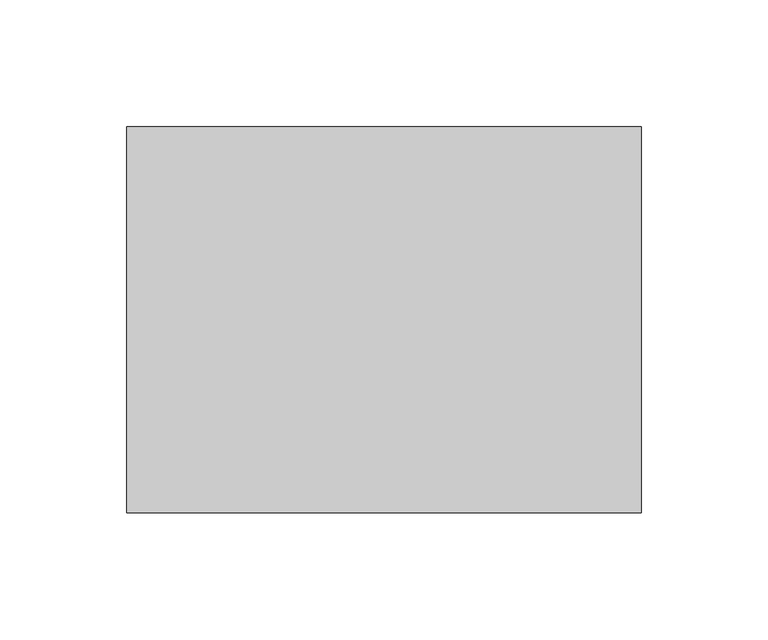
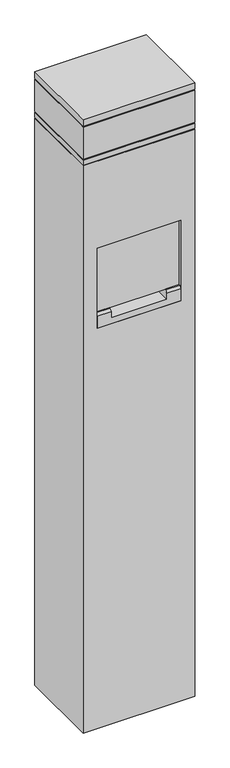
"""IFC4 building model written with IfcOpenShell, lengths in millimetres: proxy geometry, Charging_Station-Wiremold-Accent_Light : Outdoor Charging Station with Accent Light, 2 Gangs (0x GFCI, 2x 4USB), Bronze."""

from ifc_helpers import new_model, si_unit, frame, origin, origin_with_axes, place, context, project, spatial, polyline, circle_curve, outline, extrude, faceted_brep, source, transform, mapped, element, save
from ifc_brep_helpers import plane_surface, revolved_surface, advanced_brep


def electrical_fixtures_5779f368(model_context):
    return source(origin(), model_context, "Body", "SolidModel", [
        faceted_brep([(76.2, -76.2, 770.89), (76.2, 19.05, 770.89), (76.2, 19.05, 798.068), (76.2, -72.136, 798.068), (76.2, -76.2, 794.004), (-76.2, -76.2, 770.89), (-76.2, -76.2, 794.004), (-76.2, -72.136, 798.068), (-76.2, 19.05, 798.068), (-76.2, 19.05, 770.89), (-50.8, -72.136, 798.068), (-50.8, -31.8809117, 798.068), (50.8, -31.8809117, 798.068), (50.8, -72.136, 798.068), (50.8, -76.2, 794.004), (50.8, -76.2, 782.193), (-50.8, -76.2, 782.193), (-50.8, -76.2, 794.004), (50.8, -50.8, 782.193), (-50.8, -50.8, 782.193)], [[[0, 1, 2, 3, 4]], [[5, 6, 7, 8, 9]], [[1, 0, 5, 9]], [[2, 1, 9, 8]], [[3, 2, 8, 7, 10, 11, 12, 13]], [[0, 4, 14, 15, 16, 17, 6, 5]], [[12, 18, 15, 14, 13]], [[16, 19, 11, 10, 17]], [[18, 12, 11, 19]], [[15, 18, 19, 16]], [[4, 3, 13, 14]], [[7, 6, 17, 10]]]),
        advanced_brep(
        [(101.6, 76.2, 1092.2), (-101.6, 76.2, 1092.2), (-101.6, -76.2, 1092.2), (101.6, -76.2, 1092.2), (101.6, 76.2, 0.0), (101.6, -76.2, 0.0), (-101.6, -76.2, 0.0), (-101.6, 76.2, 0.0), (-55.0037, 0.0, 0.0), (55.0037, 0.0, 0.0), (76.2, -76.2, 925.068), (76.2, -76.2, 770.89), (-76.2, -76.2, 770.89), (-76.2, -76.2, 925.068), (76.2, 19.05, 925.068), (76.2, 19.05, 770.89), (76.2, -70.612, 925.068), (76.2, -70.612, 956.818), (76.2, -38.1, 956.818), (76.2, -38.1, 925.068), (-76.2, 19.05, 925.068), (-76.2, -38.1, 925.068), (-76.2, -38.1, 956.818), (-76.2, -70.612, 956.818), (-76.2, -70.612, 925.068), (-76.2, 19.05, 770.89), (51.5994623, 19.05, 770.89), (55.0037, 0.0, 770.89), (-55.0037, 0.0, 770.89), (-51.5994623, 19.05, 770.89)],
        [
            (0, 1),
            (1, 2),
            (2, 3),
            (3, 0),
            (4, 5),
            (5, 6),
            (6, 7),
            (7, 4),
            (8, 9, circle_curve(origin_with_axes(), 55.0037)),
            (9, 8, circle_curve(origin_with_axes(), 55.0037)),
            (0, 4),
            (7, 1),
            (6, 2),
            (5, 3),
            (10, 11),
            (11, 12),
            (12, 13),
            (13, 10),
            (14, 15),
            (15, 11),
            (10, 16),
            (16, 17),
            (17, 18),
            (18, 19),
            (19, 14),
            (20, 21),
            (21, 22),
            (22, 23),
            (23, 24),
            (24, 13),
            (12, 25),
            (25, 20),
            (19, 21),
            (20, 14),
            (15, 26),
            (26, 27, circle_curve(frame((0.0, 0.0, 770.89), z_axis=(0.0, 0.0, -1.0), x_axis=(1.0, 0.0, 0.0)), 55.0037)),
            (27, 28, circle_curve(frame((0.0, 0.0, 770.89), z_axis=(0.0, 0.0, -1.0), x_axis=(1.0, 0.0, 0.0)), 55.0037)),
            (28, 29, circle_curve(frame((0.0, 0.0, 770.89), z_axis=(0.0, 0.0, -1.0), x_axis=(1.0, 0.0, 0.0)), 55.0037)),
            (29, 25),
            (29, 26),
            (18, 22),
            (17, 23),
            (16, 24),
            (29, 26, circle_curve(frame((0.0, 0.0, 770.89), z_axis=(0.0, 0.0, -1.0), x_axis=(1.0, 0.0, 0.0)), 55.0037)),
            (27, 9),
            (8, 28),
        ],
        [
            plane_surface(frame((-101.6, 76.2, 1092.2), z_axis=(0.0, 0.0, 1.0), x_axis=(-1.0, 0.0, 0.0))),
            plane_surface(frame((-101.6, 76.2, 0.0), z_axis=(0.0, 0.0, -1.0), x_axis=(1.0, 0.0, 0.0))),
            plane_surface(frame((101.6, 76.2, 1092.2), z_axis=(0.0, 1.0, 0.0), x_axis=(0.0, 0.0, -1.0))),
            plane_surface(frame((-101.6, 76.2, 1092.2), z_axis=(-1.0, 0.0, 0.0), x_axis=(0.0, 0.0, -1.0))),
            plane_surface(frame((-101.6, -76.2, 1092.2), z_axis=(0.0, -1.0, 0.0), x_axis=(0.0, 0.0, -1.0))),
            plane_surface(frame((101.6, -76.2, 1092.2), z_axis=(1.0, 0.0, 0.0), x_axis=(0.0, 0.0, -1.0))),
            plane_surface(frame((76.2, -38.1, 925.068), z_axis=(-1.0, 0.0, 0.0), x_axis=(0.0, -1.0, 0.0))),
            plane_surface(frame((-76.2, -38.1, 925.068), z_axis=(1.0, 0.0, 0.0), x_axis=(0.0, 1.0, 0.0))),
            plane_surface(frame((76.2, 19.05, 925.068), z_axis=(0.0, 0.0, -1.0), x_axis=(-1.0, 0.0, 0.0))),
            plane_surface(frame((76.2, -76.2, 770.89), z_axis=(0.0, 0.0, 1.0), x_axis=(-1.0, 0.0, 0.0))),
            plane_surface(frame((76.2, 19.05, 770.89), z_axis=(0.0, -1.0, 0.0), x_axis=(-1.0, 0.0, 0.0))),
            plane_surface(frame((76.2, -38.1, 925.068), z_axis=(0.0, -1.0, 0.0), x_axis=(-1.0, 0.0, 0.0))),
            plane_surface(frame((76.2, -38.1, 956.818), z_axis=(0.0, 0.0, -1.0), x_axis=(-1.0, 0.0, 0.0))),
            plane_surface(frame((76.2, -70.612, 956.818), z_axis=(0.0, 1.0, 0.0), x_axis=(-1.0, 0.0, 0.0))),
            plane_surface(frame((76.2, -70.612, 925.068), z_axis=(0.0, 0.0, -1.0), x_axis=(-1.0, 0.0, 0.0))),
            plane_surface(frame((55.0037, 0.0, 770.89), z_axis=(0.0, 0.0, -1.0), x_axis=(0.0, 1.0, 0.0))),
            revolved_surface(polyline([(55.0037, 0.0, 770.89), (55.0037, 0.0, 0.0)]), (0.0, 0.0, 0.0), (0.0, 0.0, 1.0)),
        ],
        [
            (0, [[1, 2, 3, 4]]),
            (1, [[5, 6, 7, 8], [9, 10]]),
            (2, [[-1, 11, -8, 12]]),
            (3, [[-2, -12, -7, 13]]),
            (4, [[-3, -13, -6, 14], [15, 16, 17, 18]]),
            (5, [[-4, -14, -5, -11]]),
            (6, [[19, 20, -15, 21, 22, 23, 24, 25]]),
            (7, [[26, 27, 28, 29, 30, -17, 31, 32]]),
            (8, [[-25, 33, -26, 34]]),
            (9, [[-20, 35, 36, 37, 38, 39, -31, -16]]),
            (10, [[-19, -34, -32, -39, 40, -35]]),
            (11, [[-24, 41, -27, -33]]),
            (12, [[-23, 42, -28, -41]]),
            (13, [[-22, 43, -29, -42]]),
            (14, [[-21, -18, -30, -43]]),
            (15, [[44, -40]]),
            (16, [[45, -9, 46, -37]]),
            (16, [[-45, -36, -44, -38, -46, -10]]),
        ],
    ),
        extrude(outline(polyline([(76.2, -38.1), (76.2, -70.612), (-76.2, -70.612), (-76.2, -38.1), (76.2, -38.1)])), frame((0.0, 0.0, 798.068), z_axis=(0.0, 0.0, 1.0), x_axis=(1.0, 0.0, 0.0)), (0.0, 0.0, 1.0), 158.75),
        extrude(outline(polyline([(99.822, 74.422), (99.822, -74.422), (-99.822, -74.422), (-99.822, 74.422), (99.822, 74.422)])), frame((0.0, 0.0, 1166.622), z_axis=(0.0, 0.0, 1.0), x_axis=(1.0, 0.0, 0.0)), (0.0, 0.0, 1.0), 1.778),
        extrude(outline(polyline([(99.822, 74.422), (99.822, -74.422), (-99.822, -74.422), (-99.822, 74.422), (99.822, 74.422)])), frame((0.0, 0.0, 1103.122), z_axis=(0.0, 0.0, 1.0), x_axis=(1.0, 0.0, 0.0)), (0.0, 0.0, 1.0), 1.778),
        extrude(outline(polyline([(99.822, 74.422), (99.822, -74.422), (-99.822, -74.422), (-99.822, 74.422), (99.822, 74.422)])), frame((0.0, 0.0, 1092.2), z_axis=(0.0, 0.0, 1.0), x_axis=(1.0, 0.0, 0.0)), (0.0, 0.0, 1.0), 1.778),
        extrude(outline(polyline([(101.6, 76.2), (101.6, -76.2), (-101.6, -76.2), (-101.6, 76.2), (101.6, 76.2)])), frame((0.0, 0.0, 1168.4), z_axis=(0.0, 0.0, 1.0), x_axis=(1.0, 0.0, 0.0)), (0.0, 0.0, 1.0), 12.7),
        extrude(outline(polyline([(101.6, 76.2), (101.6, -76.2), (-101.6, -76.2), (-101.6, 76.2), (101.6, 76.2)])), frame((0.0, 0.0, 1104.9), z_axis=(0.0, 0.0, 1.0), x_axis=(1.0, 0.0, 0.0)), (0.0, 0.0, 1.0), 61.722),
        extrude(outline(polyline([(101.6, 76.2), (101.6, -76.2), (-101.6, -76.2), (-101.6, 76.2), (101.6, 76.2)])), frame((0.0, 0.0, 1093.978), z_axis=(0.0, 0.0, 1.0), x_axis=(1.0, 0.0, 0.0)), (0.0, 0.0, 1.0), 9.144),
    ])


if __name__ == "__main__":
    model = new_model("IFC4")
    model_context = context("Model", 3, world=origin())
    ifc_project = project(units=[si_unit("LENGTHUNIT", "METRE", prefix="MILLI")], contexts=[model_context])
    site = spatial("IfcSite", under=ifc_project)
    building = spatial("IfcBuilding", under=site)
    placement = place(None, origin())
    electrical_fixtures_shape = electrical_fixtures_5779f368(model_context)
    element("IfcBuildingElementProxy", 1, Name="Charging_Station-Wiremold-Accent_Light : Outdoor Charging Station with Accent Light, 2 Gangs (0x GFCI, 2x 4USB), Bronze", ObjectType="Charging_Station-Wiremold-Accent_Light : Outdoor Charging Station with Accent Light, 2 Gangs (0x GFCI, 2x 4USB), Bronze", at=placement, inside=building, context=model_context, shape_type="MappedRepresentation", body=[
        mapped(electrical_fixtures_shape, transform((0.0, 0.0, 0.0), x_axis=(1.0, 0.0, 0.0), y_axis=(0.0, 1.0, 0.0), z_axis=(0.0, 0.0, 1.0))),
    ])
    save(model, "model.ifc")
